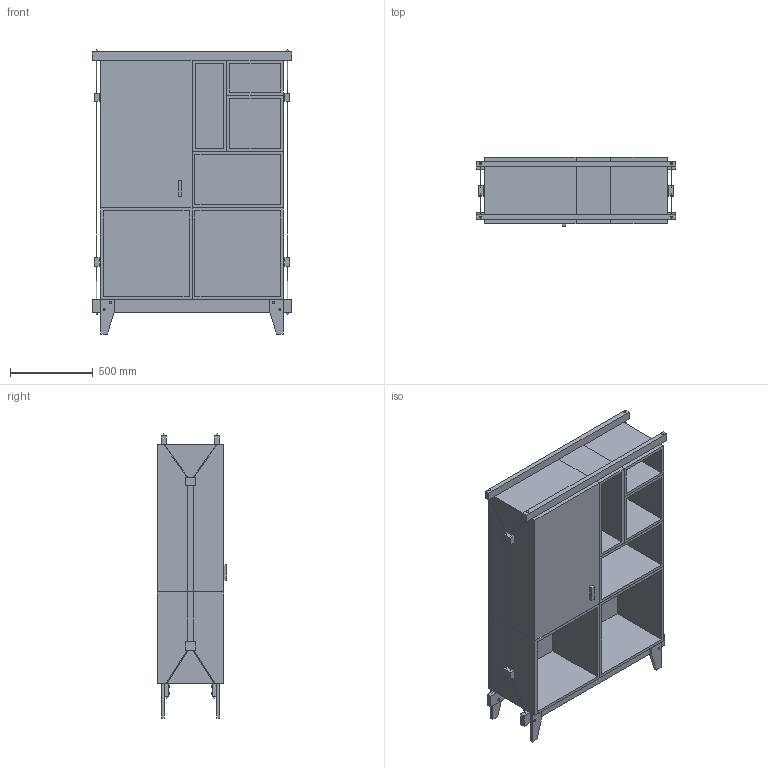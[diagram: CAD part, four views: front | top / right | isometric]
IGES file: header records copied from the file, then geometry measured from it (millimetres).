
Start section: Data from Parasolid IGES Translator 17.0.49, Copyright(c) 2006 Siemens P LM Software. All Rights Reserved.
Global section: file name: Saam F.igs; native system: By Siemens PLM Incorporated; preprocessor: XPlus GENERIC/IGES 17.0.49; author: Noname; organization: Noname; date: 20170605.063041; units: metre
Bounding box: 1200 x 418 x 1712.91 mm (x, y, z)
Volume: 292866529.6 mm3; surface area: 13074835.1 mm2
Topology: 35 solids, 35 shells, 229 faces, 452 edges, 300 vertices
Faces by surface type: plane 193, cylinder 28, sphere 8
Full cylindrical faces by diameter (mm): 3 x12, 12 x16
